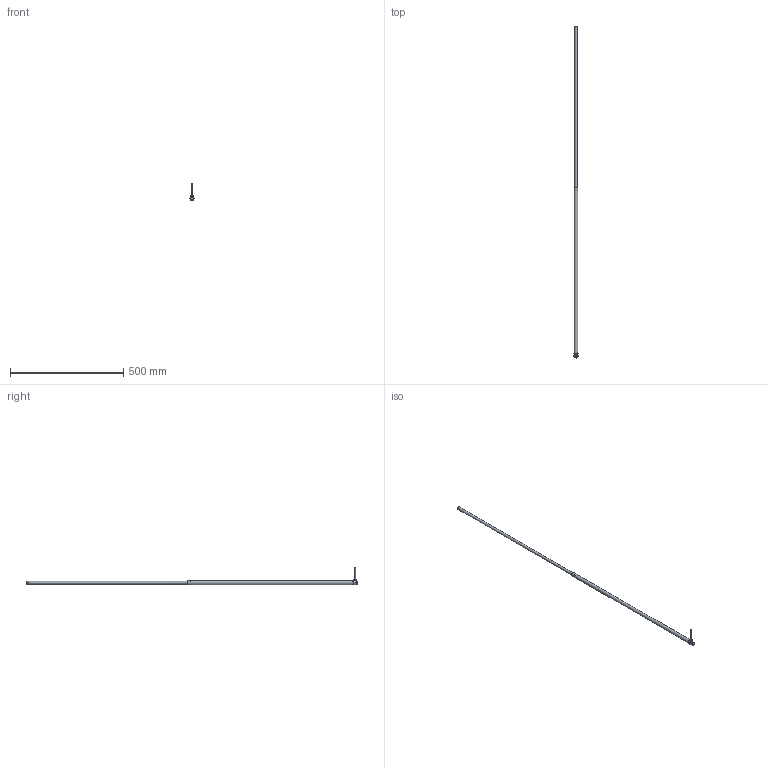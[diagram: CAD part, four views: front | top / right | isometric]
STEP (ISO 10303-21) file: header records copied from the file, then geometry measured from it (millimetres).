
FILE_DESCRIPTION(/* description */ ('Unknown'),/* implementation_level */ '2;1');
FILE_NAME(/* name */ '107.00037 Zylinder CB 1470_ausgefahren',/* time_stamp */ '2018-03-26T09:12:46+02:00',/* author */ ('Unknown'),/* organization */ ('Unknown'),/* preprocessor_version */ 'ST-DEVELOPER v16.7',/* originating_system */ 'DEX',/* authorisation */ $);
FILE_SCHEMA (('AUTOMOTIVE_DESIGN {1 0 10303 214 3 1 1}'));
Length unit declared in the file: millimetre
Products named in the file (9): 107.00037; 121.00097; 142.00021; 125.00021; 115.00001_oa_0; 125.00033; 120.00177; 122.00001; 113.00002_70mm
Assembly tree (8 placements, depth 2):
  107.00037
    121.00097
    142.00021
    125.00021
    115.00001_oa_0
    125.00033
    120.00177
    122.00001
    113.00002_70mm
Bounding box: 19.63 x 1469 x 76.5 mm (x, y, z)
Volume: 123158.2 mm3; surface area: 103381.3 mm2
Topology: 7 solids, 7 shells, 91 faces, 188 edges, 121 vertices
Faces by surface type: plane 37, cylinder 28, cone 22, torus 3, sphere 1
Full cylindrical faces by diameter (mm): 2.2 x1, 2.78 x1, 3.5 x1, 4 x1, 4.1 x1, 4.2 x1, 6 x1, 6.917 x2, 7.763 x2, 8 x3, 8.1 x3, 9 x1, 12 x2, 12.5 x1, 13 x2, 13.9 x2, 14 x2, 16 x1
Entity records: 2733 total; most frequent: CARTESIAN_POINT 436, DIRECTION 380, ORIENTED_EDGE 248, AXIS2_PLACEMENT_3D 172, FACE_BOUND 164, EDGE_LOOP 162, EDGE_CURVE 124, VERTEX_POINT 108
